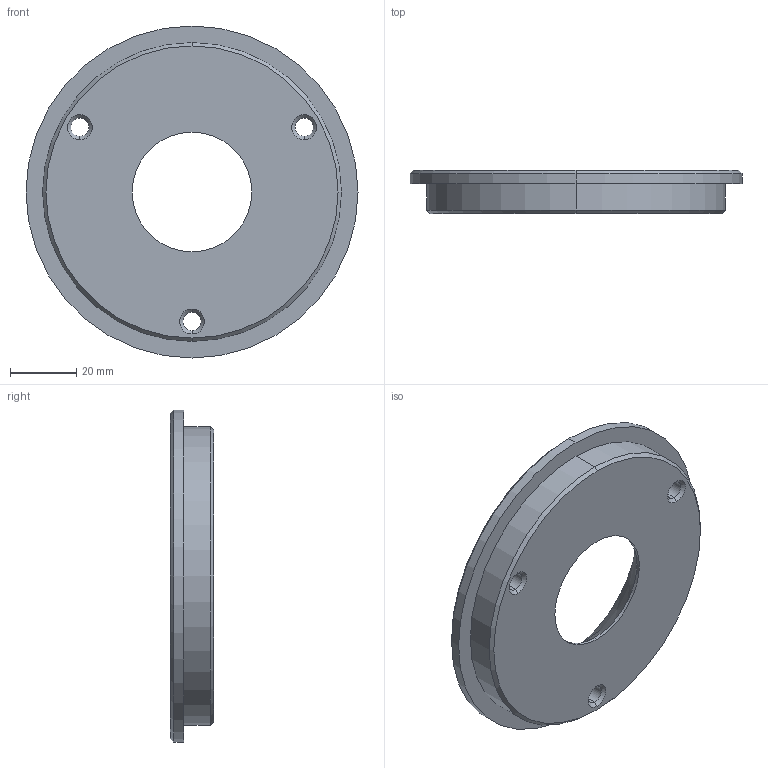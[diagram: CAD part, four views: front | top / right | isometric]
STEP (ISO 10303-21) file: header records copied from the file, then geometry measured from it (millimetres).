
FILE_DESCRIPTION (( 'STEP AP214' ), '1' );
FILE_NAME ('BR1000-100x13.STEP', '2020-02-05T12:16:56', ( 'August' ), ( '' ), 'SwSTEP 2.0', 'SolidWorks 2018', '' );
FILE_SCHEMA (( 'AUTOMOTIVE_DESIGN' ));
Length unit declared in the file: millimetre
Products named in the file (1): BR1000-100x13
Bounding box: 100 x 13 x 100 mm (x, y, z)
Volume: 63409.1 mm3; surface area: 18647.6 mm2
Topology: 1 solids, 1 shells, 42 faces, 90 edges, 54 vertices
Faces by surface type: cone 18, cylinder 18, plane 6
Entity records: 1194 total; most frequent: DIRECTION 230, CARTESIAN_POINT 187, ORIENTED_EDGE 180, AXIS2_PLACEMENT_3D 97, EDGE_CURVE 90, VERTEX_POINT 54, EDGE_LOOP 54, CIRCLE 54
